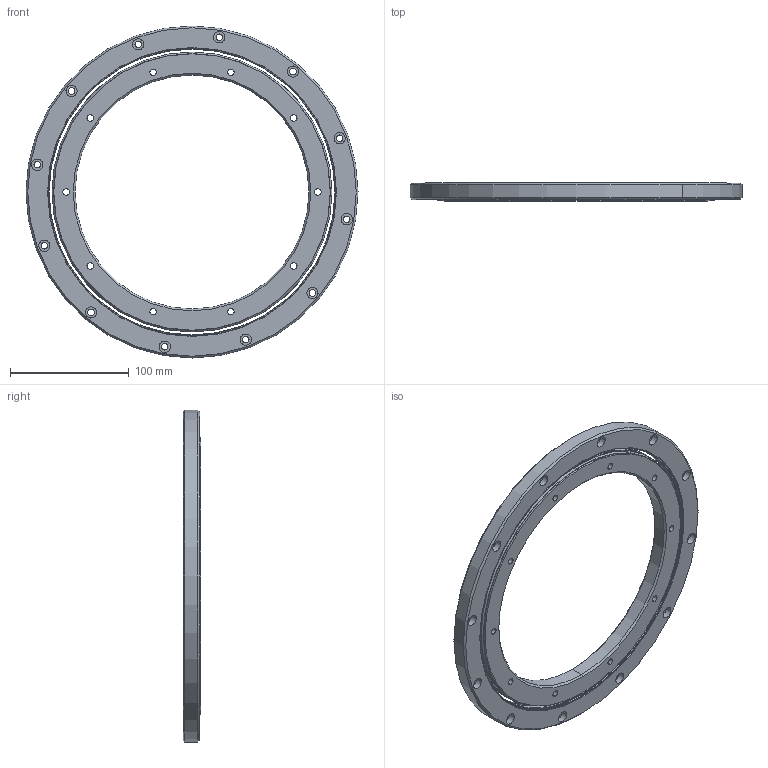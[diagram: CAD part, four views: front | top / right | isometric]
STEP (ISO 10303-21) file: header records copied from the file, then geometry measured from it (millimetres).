
FILE_DESCRIPTION (( 'STEP AP214' ), '1' );
FILE_NAME ('TTS2197-281-15 Bearing Assembly.STEP', '2018-03-14T15:18:23', ( 'Admin' ), ( '' ), 'SwSTEP 2.0', 'SolidWorks 2018', '' );
FILE_SCHEMA (( 'AUTOMOTIVE_DESIGN' ));
Length unit declared in the file: inch
Products named in the file (3): TTS2 Outer Ring_TTS2-197-281-15; TTS2 Inner Ring_TTS2-197-281-15; TTS2197-281-15 Bearing Assembly
Assembly tree (2 placements, depth 2):
  TTS2197-281-15 Bearing Assembly
    TTS2 Inner Ring_TTS2-197-281-15
    TTS2 Outer Ring_TTS2-197-281-15
Bounding box: 279.4 x 15 x 279.4 mm (x, y, z)
Volume: 376022.4 mm3; surface area: 103089.9 mm2
Topology: 2 solids, 2 shells, 190 faces, 424 edges, 262 vertices
Faces by surface type: cylinder 112, cone 28, plane 28, torus 22
Entity records: 5576 total; most frequent: DIRECTION 1098, CARTESIAN_POINT 881, ORIENTED_EDGE 848, AXIS2_PLACEMENT_3D 479, EDGE_CURVE 424, CIRCLE 284, EDGE_LOOP 262, VERTEX_POINT 262
